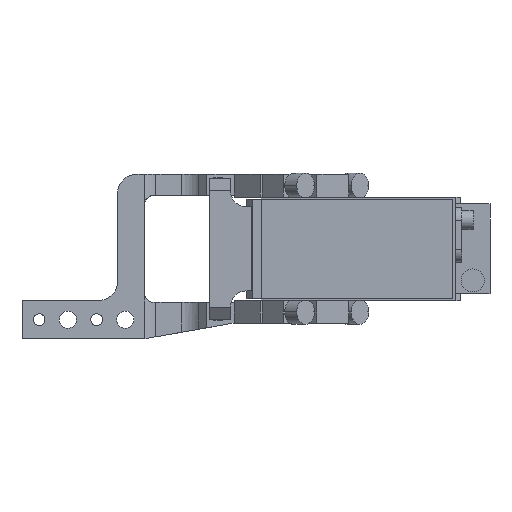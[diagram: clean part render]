
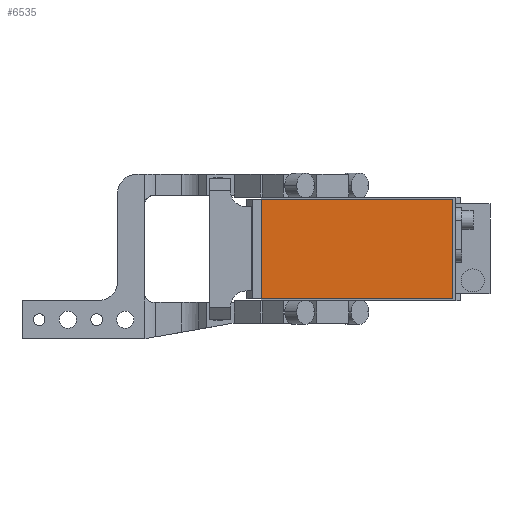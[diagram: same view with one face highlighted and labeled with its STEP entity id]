
A CAD part, front view. The second image highlights one B-rep face of the part: STEP entity #6535.
In plain terms, the highlighted planar face has unit normal (0, -1, 0).
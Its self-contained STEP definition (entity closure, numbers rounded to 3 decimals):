
#70 = LINE ( 'NONE', #6842, #1161 ) ;
#340 = CARTESIAN_POINT ( 'NONE',  ( -19., -286.5, -26. ) ) ;
#761 = DIRECTION ( 'NONE',  ( -1., 0., 0. ) ) ;
#862 = VECTOR ( 'NONE', #10542, 1000. ) ;
#1148 = LINE ( 'NONE', #13035, #8703 ) ;
#1161 = VECTOR ( 'NONE', #9282, 1000. ) ;
#1291 = CARTESIAN_POINT ( 'NONE',  ( 81., -286.5, -26. ) ) ;
#1361 = ORIENTED_EDGE ( 'NONE', *, *, #8543, .T. ) ;
#1776 = EDGE_CURVE ( 'NONE', #9660, #13544, #9919, .T. ) ;
#1915 = EDGE_CURVE ( 'NONE', #12248, #9660, #70, .T. ) ;
#2331 = EDGE_CURVE ( 'NONE', #13544, #11215, #1148, .T. ) ;
#2458 = LINE ( 'NONE', #7258, #862 ) ;
#2953 = ORIENTED_EDGE ( 'NONE', *, *, #1776, .T. ) ;
#3125 = CARTESIAN_POINT ( 'NONE',  ( -19., -286.5, 26. ) ) ;
#3735 = DIRECTION ( 'NONE',  ( 0., 0., -1. ) ) ;
#3796 = PLANE ( 'NONE',  #14931 ) ;
#4497 = CARTESIAN_POINT ( 'NONE',  ( 81., -286.5, 26. ) ) ;
#4718 = FACE_OUTER_BOUND ( 'NONE', #14943, .T. ) ;
#6535 = ADVANCED_FACE ( 'NONE', ( #4718 ), #3796, .T. ) ;
#6842 = CARTESIAN_POINT ( 'NONE',  ( 81., -286.5, 26. ) ) ;
#7258 = CARTESIAN_POINT ( 'NONE',  ( -19., -286.5, -26. ) ) ;
#8333 = ORIENTED_EDGE ( 'NONE', *, *, #1915, .T. ) ;
#8543 = EDGE_CURVE ( 'NONE', #11215, #12248, #2458, .T. ) ;
#8703 = VECTOR ( 'NONE', #3735, 1000. ) ;
#8935 = ORIENTED_EDGE ( 'NONE', *, *, #2331, .T. ) ;
#9282 = DIRECTION ( 'NONE',  ( 0., 0., 1. ) ) ;
#9588 = DIRECTION ( 'NONE',  ( 0., -1., 0. ) ) ;
#9660 = VERTEX_POINT ( 'NONE', #4497 ) ;
#9919 = LINE ( 'NONE', #3125, #10164 ) ;
#10164 = VECTOR ( 'NONE', #761, 1000. ) ;
#10542 = DIRECTION ( 'NONE',  ( 1., 0., 0. ) ) ;
#10743 = CARTESIAN_POINT ( 'NONE',  ( 0., -286.5, 0. ) ) ;
#11215 = VERTEX_POINT ( 'NONE', #340 ) ;
#12050 = CARTESIAN_POINT ( 'NONE',  ( -19., -286.5, 26. ) ) ;
#12248 = VERTEX_POINT ( 'NONE', #1291 ) ;
#13035 = CARTESIAN_POINT ( 'NONE',  ( -19., -286.5, 26. ) ) ;
#13544 = VERTEX_POINT ( 'NONE', #12050 ) ;
#14252 = DIRECTION ( 'NONE',  ( 0., 0., -1. ) ) ;
#14931 = AXIS2_PLACEMENT_3D ( 'NONE', #10743, #9588, #14252 ) ;
#14943 = EDGE_LOOP ( 'NONE', ( #8935, #1361, #8333, #2953 ) ) ;
